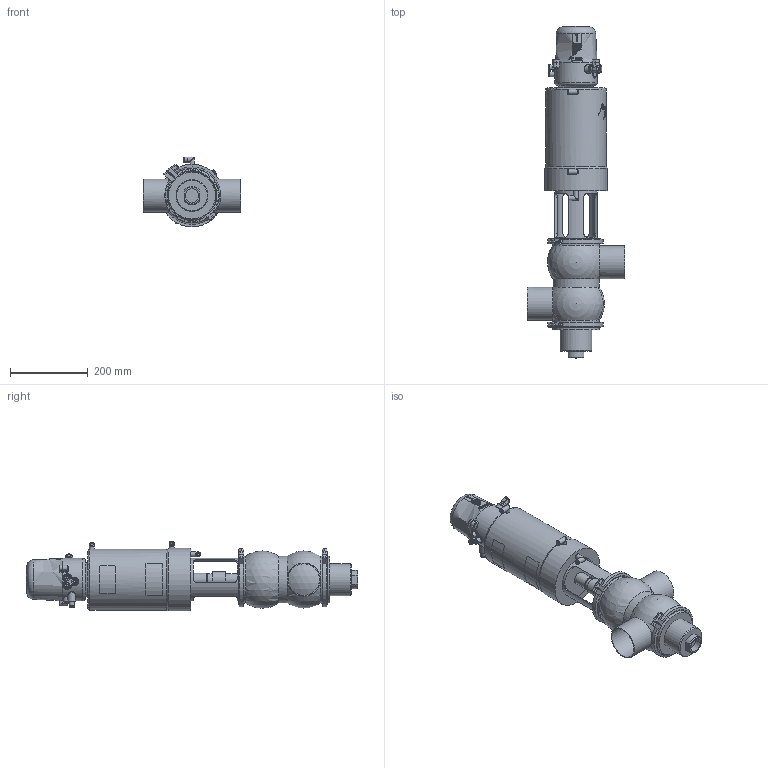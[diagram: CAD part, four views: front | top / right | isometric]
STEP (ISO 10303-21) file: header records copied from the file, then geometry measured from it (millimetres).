
FILE_DESCRIPTION (( 'STEP AP214' ), '1' );
FILE_NAME ('INNOVA P DC-180 W DIN 080 & C-TOP S_10.250.16.0019.STEP', '2024-08-08T12:21:52', ( '' ), ( '' ), 'SwSTEP 2.0', 'SolidWorks 2023', '' );
FILE_SCHEMA (( 'AUTOMOTIVE_DESIGN' ));
Length unit declared in the file: millimetre
Products named in the file (7): 10.250.15.0001_DIN 080; 10.240.15.0001_DN 080; 10.426.15.0001_C-TOP S - 3 EV; INNOVA P DC-180 W DIN 080 & C-TOP S_10.250.16.0019; 10.250.15.0003_DN 080; 10.250.15.0002_Type P T2; 10.251.15.0011_DIN 080
Assembly tree (7 placements, depth 2):
  INNOVA P DC-180 W DIN 080 & C-TOP S_10.250.16.0019
    10.250.15.0001_DIN 080
    10.250.15.0002_Type P T2
    10.426.15.0001_C-TOP S - 3 EV
    10.251.15.0011_DIN 080
    10.240.15.0001_DN 080  x2
    10.250.15.0003_DN 080
Bounding box: 250 x 851.5 x 179.5 mm (x, y, z)
Volume: 10538700.3 mm3; surface area: 633311.3 mm2
Topology: 7 solids, 7 shells, 1202 faces, 2901 edges, 1929 vertices
Faces by surface type: plane 412, cylinder 383, cone 204, bspline 162, torus 33, sphere 8
Full cylindrical faces by diameter (mm): 0.371 x17, 0.512 x16, 0.658 x16, 0.795 x16, 0.94 x15, 1.098 x15, 1.241 x13, 1.382 x13, 1.523 x11, 1.669 x10, 2.201 x1, 4.2 x2, 5 x1, 5.5 x2, 6 x4, 6.15 x3, 8 x5, 10 x1, 10.5 x3, 11 x4, 12.5 x9, 13 x6, 13.5 x2, 17 x3, 20 x2, 22 x2, 30.5 x2, 32 x1, 35 x1, 41 x1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
Entity records: 59985 total; most frequent: CARTESIAN_POINT 28672, ORIENTED_EDGE 4608, DIRECTION 3749, EDGE_CURVE 2304, VERTEX_POINT 1642, EDGE_LOOP 1620, AXIS2_PLACEMENT_3D 1544, FACE_OUTER_BOUND 1369
